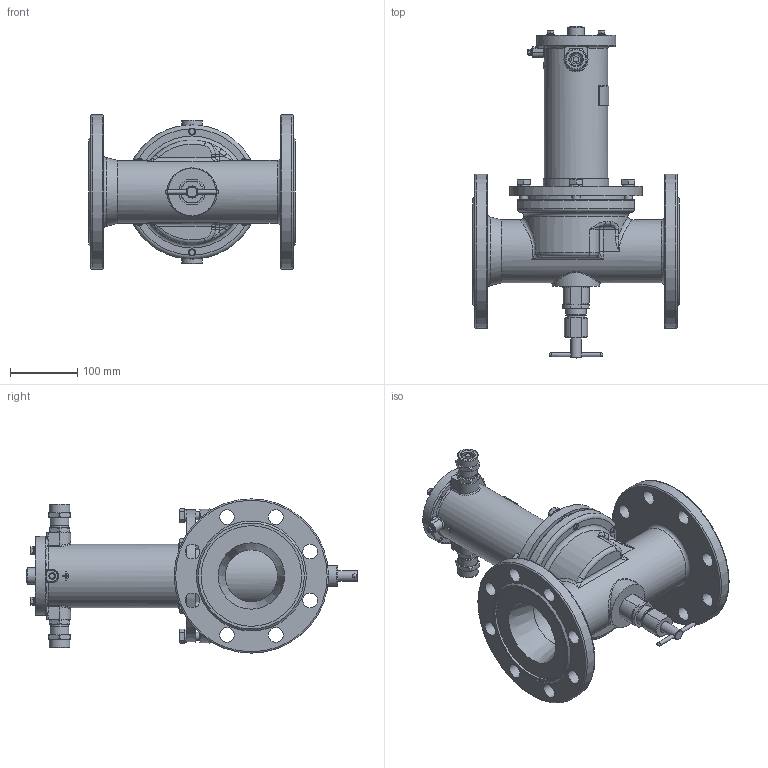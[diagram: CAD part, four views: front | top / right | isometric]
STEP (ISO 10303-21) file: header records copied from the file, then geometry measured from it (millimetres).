
FILE_DESCRIPTION(('STEP AP203'), '1');
FILE_NAME('ÑÅÍÑ DN100PN25-ÑÂ.stp', '2018-09-19T08:32:59', ('Îðëîâ Å.Â.'), ('ÎÎÎ ÍÏÏ Ñåíñîð'), 'ASCON STEP Converter 1.3', 'Kompas 3D', '');
FILE_SCHEMA(('CONFIG_CONTROL_DESIGN','SUPPORT_RESOURCE_SCHEMA'));
Length unit declared in the file: millimetre
Products named in the file (1): 1
Bounding box: 308 x 495 x 230 mm (x, y, z)
Volume: 3428845.8 mm3; surface area: 749436.4 mm2
Topology: 3 solids, 18 shells, 1981 faces, 5301 edges, 3434 vertices
Faces by surface type: cylinder 1005, plane 724, cone 123, bspline 56, torus 49, extrusion 16, sphere 8
Full cylindrical faces by diameter (mm): 3.5 x2, 4.134 x1, 4.917 x4, 5 x1, 6 x9, 6.5 x4, 8 x4, 10 x1, 10.106 x6, 12 x10, 13 x8, 16 x2, 17 x2, 18 x1, 18.632 x2, 20 x3, 22 x18, 22.376 x2, 23 x1, 23.5 x2, 24 x3, 24.5 x2, 26 x4, 26.376 x2, 27.8 x1, 28 x3, 28.5 x2, 30 x2, 31 x2, 53 x1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
Entity records: 79460 total; most frequent: CARTESIAN_POINT 29024, DIRECTION 10856, ORIENTED_EDGE 10548, EDGE_CURVE 5274, AXIS2_PLACEMENT_3D 4179, VERTEX_POINT 3434, VECTOR 2498, LINE 2482
